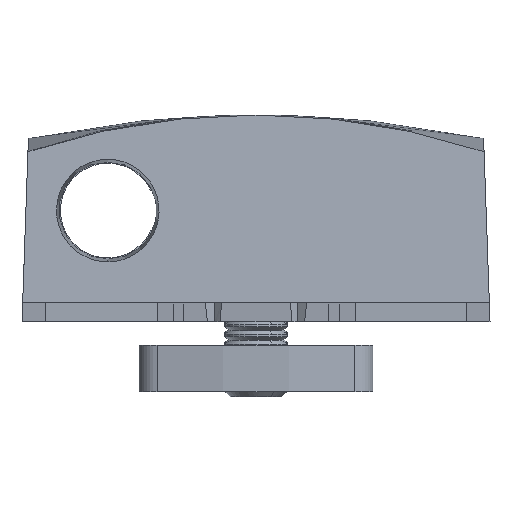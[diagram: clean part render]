
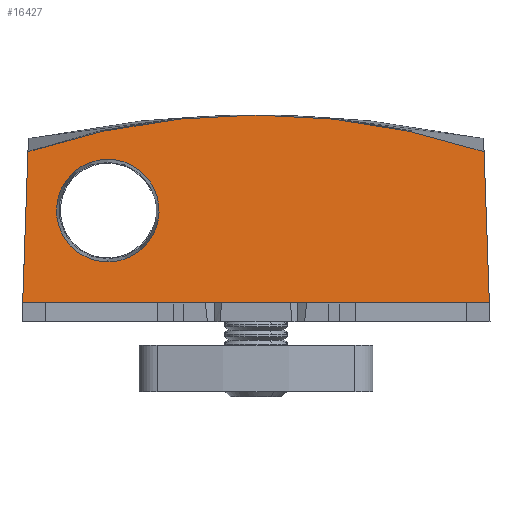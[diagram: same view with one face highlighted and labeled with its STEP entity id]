
A CAD part, front view. The second image highlights one B-rep face of the part: STEP entity #16427.
In plain terms, the highlighted planar face has unit normal (0, -0.996, 0.087) as drawn and (0.087, -0.996, 0) by its records, which use the part's own axes.
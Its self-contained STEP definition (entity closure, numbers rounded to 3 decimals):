
#293 = CARTESIAN_POINT ( 'NONE',  ( 24., -55.45, 9.863 ) ) ;
#389 = VERTEX_POINT ( 'NONE', #3506 ) ;
#613 =( BOUNDED_CURVE ( )  B_SPLINE_CURVE ( 3, ( #4978, #10255, #15558, #3676 ),
 .UNSPECIFIED., .F., .F. ) 
 B_SPLINE_CURVE_WITH_KNOTS ( ( 4, 4 ),
 ( 3.142, 6.283 ),
 .UNSPECIFIED. ) 
 CURVE ( )  GEOMETRIC_REPRESENTATION_ITEM ( )  RATIONAL_B_SPLINE_CURVE ( ( 1., 0.333, 0.333, 1. ) ) 
 REPRESENTATION_ITEM ( '' )  );
#865 = ORIENTED_EDGE ( 'NONE', *, *, #8997, .F. ) ;
#1225 = VECTOR ( 'NONE', #9307, 1000. ) ;
#1236 = LINE ( 'NONE', #11621, #2157 ) ;
#1509 = EDGE_CURVE ( 'NONE', #13847, #9657, #613, .T. ) ;
#2001 = VERTEX_POINT ( 'NONE', #12545 ) ;
#2070 = EDGE_CURVE ( 'NONE', #9657, #13847, #11255, .T. ) ;
#2074 = CARTESIAN_POINT ( 'NONE',  ( 20.077, -55.793, -26.879 ) ) ;
#2157 = VECTOR ( 'NONE', #15969, 1000. ) ;
#2575 = ORIENTED_EDGE ( 'NONE', *, *, #1509, .T. ) ;
#2599 = CARTESIAN_POINT ( 'NONE',  ( 5.172, -57.097, 32.145 ) ) ;
#2673 = FACE_OUTER_BOUND ( 'NONE', #5602, .T. ) ;
#3132 = ORIENTED_EDGE ( 'NONE', *, *, #10457, .T. ) ;
#3506 = CARTESIAN_POINT ( 'NONE',  ( 0., -57.55, -29.913 ) ) ;
#3676 = CARTESIAN_POINT ( 'NONE',  ( 5.172, -57.097, 19. ) ) ;
#3887 = CARTESIAN_POINT ( 'NONE',  ( 5.172, -57.097, 19. ) ) ;
#4050 = CARTESIAN_POINT ( 'NONE',  ( 24., -55.45, 0. ) ) ;
#4674 = EDGE_CURVE ( 'NONE', #9669, #389, #1236, .T. ) ;
#4776 = DIRECTION ( 'NONE',  ( 0., 0., 1. ) ) ;
#4978 = CARTESIAN_POINT ( 'NONE',  ( 18.318, -55.947, 19. ) ) ;
#4998 = PLANE ( 'NONE',  #16677 ) ;
#5437 = CARTESIAN_POINT ( 'NONE',  ( 19.298, -55.862, 29.239 ) ) ;
#5602 = EDGE_LOOP ( 'NONE', ( #13161, #3132, #11495, #14306, #865 ) ) ;
#5711 = CARTESIAN_POINT ( 'NONE',  ( 23.606, -55.485, -9.896 ) ) ;
#6070 = EDGE_CURVE ( 'NONE', #8058, #15641, #9130, .T. ) ;
#6265 = CARTESIAN_POINT ( 'NONE',  ( 0., -57.55, 0. ) ) ;
#6396 = DIRECTION ( 'NONE',  ( 0.087, -0.996, 0. ) ) ;
#6549 = CARTESIAN_POINT ( 'NONE',  ( 1.035, -57.459, 29.877 ) ) ;
#7369 = CARTESIAN_POINT ( 'NONE',  ( 24., -55.45, 0. ) ) ;
#7696 = CARTESIAN_POINT ( 'NONE',  ( 0., -57.55, 0. ) ) ;
#8058 = VERTEX_POINT ( 'NONE', #8388 ) ;
#8388 = CARTESIAN_POINT ( 'NONE',  ( 19.298, -55.862, 29.239 ) ) ;
#8411 = CARTESIAN_POINT ( 'NONE',  ( 0., -57.55, 29.913 ) ) ;
#8569 = CARTESIAN_POINT ( 'NONE',  ( 22.721, -55.562, -15.409 ) ) ;
#8759 = LINE ( 'NONE', #6265, #13144 ) ;
#8881 = CARTESIAN_POINT ( 'NONE',  ( 19.298, -55.862, -29.239 ) ) ;
#8997 = EDGE_CURVE ( 'NONE', #389, #15641, #8759, .T. ) ;
#9003 = CARTESIAN_POINT ( 'NONE',  ( 18.318, -55.947, 32.145 ) ) ;
#9130 = LINE ( 'NONE', #6549, #1225 ) ;
#9307 = DIRECTION ( 'NONE',  ( -0.996, -0.087, 0.035 ) ) ;
#9657 = VERTEX_POINT ( 'NONE', #12261 ) ;
#9669 = VERTEX_POINT ( 'NONE', #8881 ) ;
#9865 = CARTESIAN_POINT ( 'NONE',  ( 22.045, -55.621, -19.071 ) ) ;
#10096 = B_SPLINE_CURVE_WITH_KNOTS ( 'NONE', 3,
 ( #5437, #12180, #293, #4050 ),
 .UNSPECIFIED., .F., .F.,
 ( 4, 4 ),
 ( 0., 1. ),
 .UNSPECIFIED. ) ;
#10255 = CARTESIAN_POINT ( 'NONE',  ( 18.318, -55.947, 5.855 ) ) ;
#10457 = EDGE_CURVE ( 'NONE', #9669, #2001, #16205, .T. ) ;
#11022 = CARTESIAN_POINT ( 'NONE',  ( 18.318, -55.947, 19. ) ) ;
#11247 = EDGE_LOOP ( 'NONE', ( #12330, #2575 ) ) ;
#11255 =( BOUNDED_CURVE ( )  B_SPLINE_CURVE ( 3, ( #3887, #2599, #9003, #17100 ),
 .UNSPECIFIED., .F., .F. ) 
 B_SPLINE_CURVE_WITH_KNOTS ( ( 4, 4 ),
 ( 0., 3.142 ),
 .UNSPECIFIED. ) 
 CURVE ( )  GEOMETRIC_REPRESENTATION_ITEM ( )  RATIONAL_B_SPLINE_CURVE ( ( 1., 0.333, 0.333, 1. ) ) 
 REPRESENTATION_ITEM ( '' )  );
#11495 = ORIENTED_EDGE ( 'NONE', *, *, #14475, .F. ) ;
#11621 = CARTESIAN_POINT ( 'NONE',  ( 2.51, -57.33, -29.825 ) ) ;
#12180 = CARTESIAN_POINT ( 'NONE',  ( 22.435, -55.587, 19.739 ) ) ;
#12261 = CARTESIAN_POINT ( 'NONE',  ( 5.172, -57.097, 19. ) ) ;
#12330 = ORIENTED_EDGE ( 'NONE', *, *, #2070, .T. ) ;
#12545 = CARTESIAN_POINT ( 'NONE',  ( 24., -55.45, 0. ) ) ;
#13144 = VECTOR ( 'NONE', #4776, 1000. ) ;
#13161 = ORIENTED_EDGE ( 'NONE', *, *, #4674, .F. ) ;
#13664 = CARTESIAN_POINT ( 'NONE',  ( 22.616, -55.571, -16.022 ) ) ;
#13847 = VERTEX_POINT ( 'NONE', #11022 ) ;
#14306 = ORIENTED_EDGE ( 'NONE', *, *, #6070, .T. ) ;
#14475 = EDGE_CURVE ( 'NONE', #8058, #2001, #10096, .T. ) ;
#14527 = FACE_BOUND ( 'NONE', #11247, .T. ) ;
#14987 = CARTESIAN_POINT ( 'NONE',  ( 21.102, -55.704, -23.305 ) ) ;
#15252 = CARTESIAN_POINT ( 'NONE',  ( 24., -55.45, -4.964 ) ) ;
#15558 = CARTESIAN_POINT ( 'NONE',  ( 5.172, -57.097, 5.855 ) ) ;
#15641 = VERTEX_POINT ( 'NONE', #8411 ) ;
#15674 = DIRECTION ( 'NONE',  ( 0., 0., -1. ) ) ;
#15969 = DIRECTION ( 'NONE',  ( -0.996, -0.087, -0.035 ) ) ;
#16205 = B_SPLINE_CURVE_WITH_KNOTS ( 'NONE', 3,
 ( #16467, #2074, #14987, #9865, #16558, #13664, #8569, #5711, #15252, #7369 ),
 .UNSPECIFIED., .F., .F.,
 ( 4, 1, 1, 2, 2, 4 ),
 ( 0., 0.25, 0.375, 0.437, 0.5, 1. ),
 .UNSPECIFIED. ) ;
#16427 = ADVANCED_FACE ( 'NONE', ( #14527, #2673 ), #4998, .T. ) ;
#16467 = CARTESIAN_POINT ( 'NONE',  ( 19.298, -55.862, -29.239 ) ) ;
#16558 = CARTESIAN_POINT ( 'NONE',  ( 22.394, -55.591, -17.244 ) ) ;
#16677 = AXIS2_PLACEMENT_3D ( 'NONE', #7696, #6396, #15674 ) ;
#17100 = CARTESIAN_POINT ( 'NONE',  ( 18.318, -55.947, 19. ) ) ;
